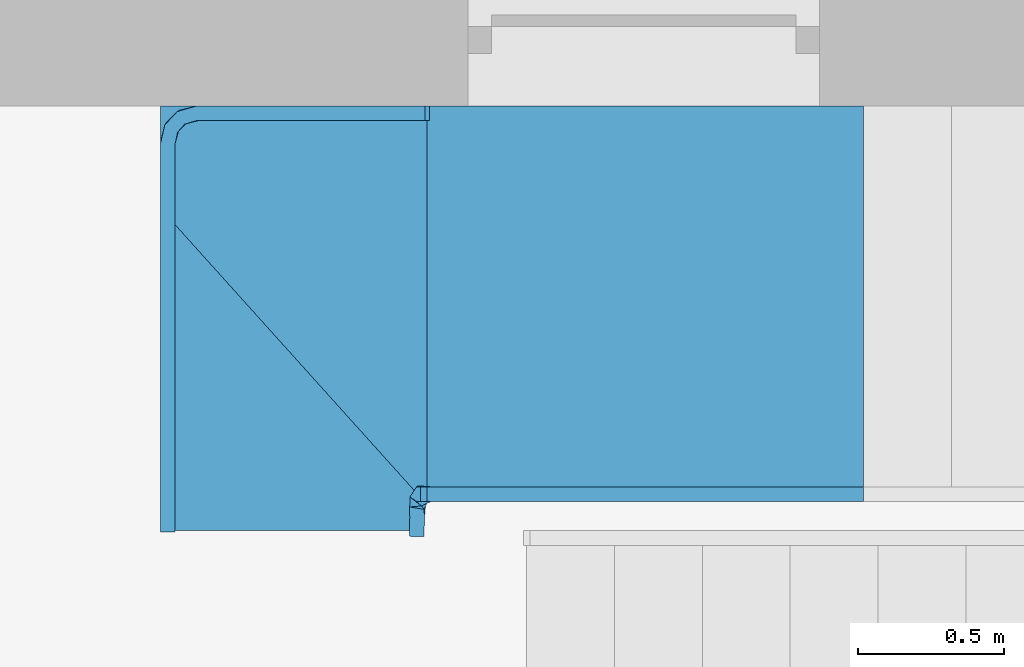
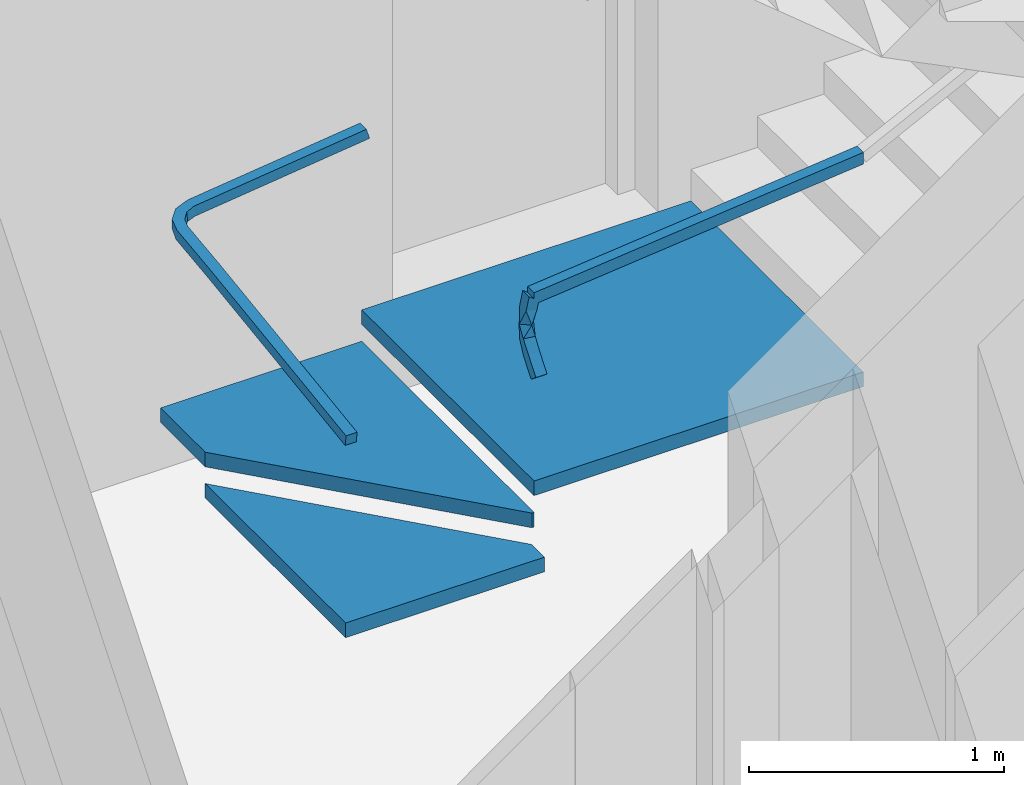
# One storey, part 127 of 140: 1 stair.
"""IFC4 building model written with IfcOpenShell, lengths in metres."""

import ifcopenshell
import ifcopenshell.guid

model = None  # the IFC model being written
_history = None  # IfcOwnerHistory: only IFC2X3 demands one
_inside = {}  # id of a spatial element -> (the spatial element, [elements in it])
_under = {}  # id of a project, library or spatial element -> (it, [spatial elements below it])
_declared = {}  # id of a project -> (the project, [libraries it declares])
_typed = {}  # id of a type object -> (the type object, [elements of that type])
_made_of = {}  # id of a material, layer set ... -> (it, [elements and type objects made of it])


def new_model(schema):
    """Start an empty IFC model of exactly this schema.

    Asked for "IFC4X3", IfcOpenShell would pick the latest addendum, in which some entities
    have other attributes; the version numbers below select the first issue.
    IFC2X3 requires an IfcOwnerHistory on every rooted entity: one is made here for all.
    """
    global model, _history
    if schema == "IFC4X3":
        model = ifcopenshell.file(schema_version=(4, 3, 0, 0))
    else:
        model = ifcopenshell.file(schema=schema)
    _inside.clear()
    _under.clear()
    _declared.clear()
    _typed.clear()
    _made_of.clear()
    _history = None
    if model.schema == "IFC2X3":
        org = make("IfcOrganization", Name="unknown")
        user = make(
            "IfcPersonAndOrganization",
            ThePerson=make("IfcPerson", FamilyName="unknown"),
            TheOrganization=org,
        )
        app = make(
            "IfcApplication",
            ApplicationDeveloper=org,
            Version="unknown",
            ApplicationFullName="unknown",
            ApplicationIdentifier="unknown",
        )
        _history = make(
            "IfcOwnerHistory",
            OwningUser=user,
            OwningApplication=app,
            ChangeAction="ADDED",
            CreationDate=0,
        )
    return model


def make(cls, **values):
    """One entity of the class cls with the attributes given. An attribute that is None is left unset."""
    return model.create_entity(
        cls, **{name: value for name, value in values.items() if value is not None}
    )


def entity(cls, *values):
    """Any entity or typed value of the class cls, its attributes in the order of the schema. None: left unset."""
    e = model.create_entity(cls)
    for i, value in enumerate(values):
        if value is not None:
            e[i] = value
    return e


def rooted(cls, **values):
    """An entity with a GlobalId (a new one), such as an element, a storey or a relation."""
    return make(cls, GlobalId=ifcopenshell.guid.new(), OwnerHistory=_history, **values)


def si_unit(unit_type, name, prefix=None):
    """IfcSIUnit, for example si_unit("LENGTHUNIT", "METRE", prefix="MILLI")."""
    return make("IfcSIUnit", UnitType=unit_type, Prefix=prefix, Name=name)


def converted_unit(unit_type, name, factor, base, dimensions=None, offset=None):
    """IfcConversionBasedUnit, such as the inch: factor (a typed value) times the base unit."""
    return make(
        "IfcConversionBasedUnit"
        if offset is None
        else "IfcConversionBasedUnitWithOffset",
        ConversionOffset=offset,
        Dimensions=None
        if dimensions is None
        else entity("IfcDimensionalExponents", *dimensions),
        UnitType=unit_type,
        Name=name,
        ConversionFactor=make(
            "IfcMeasureWithUnit", ValueComponent=factor, UnitComponent=base
        ),
    )


def derived_unit(unit_type, elements):
    """IfcDerivedUnit: a product of units, each with its exponent."""
    return make(
        "IfcDerivedUnit",
        Elements=[
            make("IfcDerivedUnitElement", Unit=unit, Exponent=power)
            for unit, power in elements
        ],
        UnitType=unit_type,
    )


def assignment(units):
    """IfcUnitAssignment: the units of a project."""
    return None if units is None else make("IfcUnitAssignment", Units=units)


def point(xyz):
    """IfcCartesianPoint."""
    return None if xyz is None else make("IfcCartesianPoint", Coordinates=xyz)


def direction(xyz):
    """IfcDirection."""
    return None if xyz is None else make("IfcDirection", DirectionRatios=xyz)


def frame(location, z_axis=None, x_axis=None):
    """IfcAxis2Placement3D, a coordinate frame: its origin and axes. An axis left out is left unset."""
    return make(
        "IfcAxis2Placement3D",
        Location=point(location),
        Axis=direction(z_axis),
        RefDirection=direction(x_axis),
    )


def origin():
    """The frame at (0, 0, 0) with its axes left unset."""
    return frame((0.0, 0.0, 0.0))


def place(relative_to, where):
    """IfcLocalPlacement: puts the frame where relative to a parent placement (None: the world)."""
    return make(
        "IfcLocalPlacement", PlacementRelTo=relative_to, RelativePlacement=where
    )


def context(
    kind, dimensions, precision=None, world=None, true_north=None, identifier=None
):
    """IfcGeometricRepresentationContext, for example the 3D "Model" context."""
    return make(
        "IfcGeometricRepresentationContext",
        ContextIdentifier=identifier,
        ContextType=kind,
        CoordinateSpaceDimension=dimensions,
        Precision=precision,
        WorldCoordinateSystem=world,
        TrueNorth=true_north,
    )


def subcontext(parent, identifier, kind, view, scale=None):
    """IfcGeometricRepresentationSubContext, for example "Body" below "Model"."""
    return make(
        "IfcGeometricRepresentationSubContext",
        ContextIdentifier=identifier,
        ContextType=kind,
        ParentContext=parent,
        TargetScale=scale,
        TargetView=view,
    )


def project(units=None, contexts=None):
    """IfcProject with its units and contexts."""
    return rooted(
        "IfcProject",
        Name="project",
        RepresentationContexts=contexts,
        UnitsInContext=assignment(units),
    )


def spatial(cls, under=None, at=None, **own):
    """A site, building, storey or space (cls), placed at a placement, below another one or the project."""
    s = rooted(cls, ObjectPlacement=at, **own)
    if under is not None:
        _under.setdefault(under.id(), (under, []))[1].append(s)
    return s


def faces_of(points, faces, orient=None, outer=None):
    """IfcFace entities. A face is a list of loops; a loop is a list of indices into points, from 0.

    orient and outer hold one flag for each loop. By default every Orientation is true, the
    first loop of a face is its IfcFaceOuterBound and the others are IfcFaceBound.
    """
    made = []
    for i, loops in enumerate(faces):
        bounds = []
        for j, loop in enumerate(loops):
            is_outer = j == 0 if outer is None else outer[i][j]
            bounds.append(
                make(
                    "IfcFaceOuterBound" if is_outer else "IfcFaceBound",
                    Bound=make("IfcPolyLoop", Polygon=[points[k] for k in loop]),
                    Orientation=True if orient is None else orient[i][j],
                )
            )
        made.append(make("IfcFace", Bounds=bounds))
    return made


def faceted_brep(points, faces, orient=None, outer=None, voids=None):
    """IfcFacetedBrep: a solid bounded by flat faces; with voids (closed shells), ...WithVoids."""
    shared = [point(p) for p in points]
    hull = make("IfcClosedShell", CfsFaces=faces_of(shared, faces, orient, outer))
    if voids is None:
        return make("IfcFacetedBrep", Outer=hull)
    return make(
        "IfcFacetedBrepWithVoids",
        Outer=hull,
        Voids=[
            make(cls, CfsFaces=faces_of(shared, fs, o, b)) for cls, fs, o, b in voids
        ],
    )


def shape(context_of_items, identifier, shape_type, items):
    """IfcShapeRepresentation: the items that make up one representation, for example the "Body"."""
    return make(
        "IfcShapeRepresentation",
        ContextOfItems=context_of_items,
        RepresentationIdentifier=identifier,
        RepresentationType=shape_type,
        Items=items,
    )


def material(Name=None, Category=None):
    """IfcMaterial."""
    return make("IfcMaterial", Name=Name, Category=Category)


def made_of(thing, what):
    """Note that an element or type object is made of a material, layer set ...; save() writes the relation."""
    if what is not None:
        _made_of.setdefault(what.id(), (what, []))[1].append(thing)
    return thing


def element(
    cls,
    number,
    at=None,
    inside=None,
    cuts=None,
    type_object=None,
    material=None,
    context=None,
    identifier="Body",
    shape_type=None,
    held_by="IfcProductDefinitionShape",
    body=None,
    shapes=None,
    **own,
):
    """One element of the class cls, such as IfcWall. Its Tag is "e" and its number.

    at: its placement. inside: the storey or other place that contains it. cuts: it is an
    opening in that element (IfcRelVoidsElement). A single representation is given by context,
    identifier, shape_type and body (its items); several are given by shapes. held_by: the class
    of the entity that holds the representations. save() writes the other relations.
    """
    e = rooted(cls, Tag="e%d" % number, ObjectPlacement=at, **own)
    if body is not None:
        shapes = [shape(context, identifier, shape_type, body)]
    if shapes is not None:
        e.Representation = make(held_by, Representations=shapes)
    if inside is not None:
        _inside.setdefault(inside.id(), (inside, []))[1].append(e)
    if cuts is not None:
        rooted(
            "IfcRelVoidsElement", RelatingBuildingElement=cuts, RelatedOpeningElement=e
        )
    if type_object is not None:
        _typed.setdefault(type_object.id(), (type_object, []))[1].append(e)
    return made_of(e, material)


def aggregate(whole, parts):
    """IfcRelAggregates: a whole, such as a stair, and the parts it consists of."""
    return rooted("IfcRelAggregates", RelatingObject=whole, RelatedObjects=parts)


def save(model, path):
    """Write the relations noted so far, then the file.

    IfcRelAggregates (storeys below a building ...), IfcRelContainedInSpatialStructure (elements
    in a storey), IfcRelDefinesByType, IfcRelAssociatesMaterial and IfcRelDeclares: one each for
    every whole, place, type object, material and project.
    """
    for whole, parts in _under.values():
        aggregate(whole, parts)
    for where, things in _inside.values():
        rooted(
            "IfcRelContainedInSpatialStructure",
            RelatedElements=things,
            RelatingStructure=where,
        )
    for kind, things in _typed.values():
        rooted("IfcRelDefinesByType", RelatedObjects=things, RelatingType=kind)
    for what, things in _made_of.values():
        rooted("IfcRelAssociatesMaterial", RelatedObjects=things, RelatingMaterial=what)
    for by, libraries in _declared.values():
        rooted("IfcRelDeclares", RelatingContext=by, RelatedDefinitions=libraries)
    model.write(path)


model = new_model("IFC4")

# Units and contexts
model_context = context("Model", 3, precision=1e-05, world=origin())
body_context = subcontext(model_context, "Body", "Model", "MODEL_VIEW")
ifc_project = project(units=[si_unit("LENGTHUNIT", "METRE"), si_unit("AREAUNIT", "SQUARE_METRE"), si_unit("VOLUMEUNIT", "CUBIC_METRE"), si_unit("MASSUNIT", "GRAM", prefix="KILO"), converted_unit("PLANEANGLEUNIT", "DEGREE", entity("IfcPlaneAngleMeasure", 0.0174532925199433), si_unit("PLANEANGLEUNIT", "RADIAN"), dimensions=[0, 0, 0, 0, 0, 0, 0]), derived_unit("THERMALTRANSMITTANCEUNIT", [(si_unit("POWERUNIT", "WATT"), 1), (si_unit("THERMODYNAMICTEMPERATUREUNIT", "KELVIN"), -1), (si_unit("LENGTHUNIT", "METRE"), -2)]), derived_unit("VOLUMETRICFLOWRATEUNIT", [(si_unit("LENGTHUNIT", "METRE"), 3), (converted_unit("TIMEUNIT", "hour", entity("IfcTimeMeasure", 3600.0), si_unit("TIMEUNIT", "SECOND"), dimensions=[0, 0, 1, 0, 0, 0, 0]), -1), (si_unit("LENGTHUNIT", "METRE"), -1)])], contexts=[model_context])

# Site, building, storey
site_placement = place(None, origin())
site = spatial("IfcSite", under=ifc_project, at=site_placement, Name="3. ASŘ", CompositionType="ELEMENT")
building_placement = place(site_placement, origin())
building = spatial("IfcBuilding", under=site, at=building_placement, Name="Pavilon C", CompositionType="ELEMENT")
storey_placement = place(building_placement, origin())
storey = spatial("IfcBuildingStorey", under=building, at=storey_placement, Name="Půdorys 1.NP", CompositionType="ELEMENT", Elevation=0.0)

# Stair
ifc_material = material(Name="Pøímé schodi\x9atì")
stair_placement = place(storey_placement, frame((41.8, 30.8302999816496, 0.08)))
element("IfcStair", 1, at=stair_placement, inside=storey, material=ifc_material, PredefinedType="NOTDEFINED", context=body_context, shape_type="Brep", body=[
    faceted_brep([(0.0, 1.46970001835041, 0.15), (0.0, 1.11970001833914, 0.15), (0.9, 0.119700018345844, 0.15), (0.910000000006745, 0.119700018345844, 0.15), (0.909999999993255, 1.46970001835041, 0.15), (0.0, 1.11970001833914, 0.22), (0.0, 1.46970001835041, 0.22), (0.909999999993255, 1.46970001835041, 0.22), (0.910000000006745, 0.119700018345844, 0.22), (0.9, 0.119700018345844, 0.22)], [[[0, 1, 2, 3, 4]], [[5, 6, 7, 8, 9]], [[1, 0, 6, 5]], [[2, 1, 5, 9]], [[3, 2, 9, 8]], [[4, 3, 8, 7]], [[0, 4, 7, 6]]], orient=[[False], [False], [False], [False], [False], [False], [False]]),
    faceted_brep([(0.0, 1.11970001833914, 0.0), (0.0, 0.0197000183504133, 0.0), (0.9, 0.0197000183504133, 0.0), (0.9, 0.119700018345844, 0.0), (0.0, 0.0197000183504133, 0.07), (0.0, 1.11970001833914, 0.07), (0.9, 0.119700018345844, 0.07), (0.9, 0.0197000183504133, 0.07)], [[[0, 1, 2, 3]], [[4, 5, 6, 7]], [[1, 0, 5, 4]], [[2, 1, 4, 7]], [[3, 2, 7, 6]], [[0, 3, 6, 5]]], orient=[[False], [False], [False], [False], [False], [False]]),
    faceted_brep([(2.3999, 1.46970001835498, 0.3), (0.909999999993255, 1.46970001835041, 0.3), (0.910000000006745, 0.119700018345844, 0.3), (2.3999, 0.119700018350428, 0.3), (0.909999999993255, 1.46970001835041, 0.37), (2.3999, 1.46970001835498, 0.37), (2.3999, 0.119700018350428, 0.37), (0.910000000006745, 0.119700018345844, 0.37)], [[[0, 1, 2, 3]], [[4, 5, 6, 7]], [[1, 0, 5, 4]], [[2, 1, 4, 7]], [[3, 2, 7, 6]], [[0, 3, 6, 5]]], orient=[[False], [False], [False], [False], [False], [False]]),
    faceted_brep([(0.899610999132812, 0.0, 0.958055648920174), (0.900379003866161, 0.0384002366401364, 0.926042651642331), (0.850389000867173, 0.0394000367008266, 0.926042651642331), (0.849620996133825, 0.000999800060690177, 0.958055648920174), (0.900830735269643, 0.0609868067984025, 1.03123981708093), (0.850840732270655, 0.0619866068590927, 1.03123981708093), (0.851608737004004, 0.100386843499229, 0.999226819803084), (0.901598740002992, 0.099387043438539, 0.999226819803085)], [[[0, 1, 2, 3]], [[4, 5, 6, 7]], [[0, 3, 5, 4]], [[3, 2, 6, 5]], [[2, 1, 7, 6]], [[1, 0, 4, 7]]], orient=[[False], [False], [False], [False], [False], [False]]),
    faceted_brep([(0.900830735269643, 0.0609868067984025, 1.03123981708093), (0.901598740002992, 0.099387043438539, 0.999226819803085), (0.851608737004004, 0.100386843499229, 0.999226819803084), (0.850840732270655, 0.0619866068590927, 1.03123981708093), (0.900032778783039, 0.0928414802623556, 1.08170885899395), (0.850699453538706, 0.100979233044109, 1.08170885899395), (0.857853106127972, 0.144346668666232, 1.05787420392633), (0.907186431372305, 0.136208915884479, 1.05787420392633), (0.890994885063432, 0.104368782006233, 1.13129644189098), (0.851472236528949, 0.134994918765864, 1.13129644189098), (0.881039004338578, 0.173150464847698, 1.11825955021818), (0.920561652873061, 0.142524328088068, 1.11825955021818), (0.874242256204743, 0.119700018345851, 1.19507529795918), (0.874242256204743, 0.169700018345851, 1.19507529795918), (0.923108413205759, 0.169700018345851, 1.18448763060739), (0.923108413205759, 0.119700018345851, 1.18448763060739), (0.888059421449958, 0.119700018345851, 1.25884682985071), (0.888059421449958, 0.169700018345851, 1.25884682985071), (0.931940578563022, 0.169700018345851, 1.2252514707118), (0.931940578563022, 0.119700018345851, 1.2252514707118)], [[[0, 1, 2, 3]], [[0, 3, 4]], [[3, 5, 4]], [[3, 2, 5]], [[2, 6, 5]], [[2, 1, 6]], [[1, 7, 6]], [[1, 0, 7]], [[0, 4, 7]], [[4, 5, 8]], [[5, 9, 8]], [[5, 6, 9]], [[6, 10, 9]], [[6, 7, 10]], [[7, 11, 10]], [[7, 4, 11]], [[4, 8, 11]], [[8, 9, 12]], [[9, 13, 12]], [[9, 10, 13]], [[10, 14, 13]], [[10, 11, 14]], [[11, 15, 14]], [[11, 8, 15]], [[8, 12, 15]], [[16, 17, 18, 19]], [[12, 13, 17, 16]], [[13, 14, 18, 17]], [[14, 15, 19, 18]], [[15, 12, 16, 19]]], orient=[[False], [False], [False], [False], [False], [False], [False], [False], [False], [False], [False], [False], [False], [False], [False], [False], [False], [False], [False], [False], [False], [False], [False], [False], [False], [False], [False], [False], [False], [False]]),
    faceted_brep([(0.910000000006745, 0.119700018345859, 1.21409830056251), (2.3999, 0.119700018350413, 1.36409830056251), (2.3999, 0.169700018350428, 1.36409830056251), (0.910000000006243, 0.169700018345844, 1.21409830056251), (0.910000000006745, 0.119700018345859, 1.27), (0.910000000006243, 0.169700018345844, 1.27), (2.3999, 0.169700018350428, 1.42), (2.3999, 0.119700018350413, 1.42)], [[[0, 1, 2, 3]], [[4, 5, 6, 7]], [[3, 5, 4, 0]], [[0, 4, 7, 1]], [[1, 7, 6, 2]], [[2, 6, 5, 3]]], orient=[[False], [False], [False], [False], [False], [False]]),
    faceted_brep([(0.05, 0.0162363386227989, 0.966808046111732), (0.05, 0.0231636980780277, 0.917290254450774), (0.0, 0.0231636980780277, 0.917290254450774), (0.0, 0.0162363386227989, 0.966808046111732), (0.05, 1.08868631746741, 1.11683990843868), (0.0, 1.08868631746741, 1.11683990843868), (0.0, 1.09515816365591, 1.06725839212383), (0.05, 1.09515816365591, 1.06725839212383)], [[[0, 1, 2, 3]], [[4, 5, 6, 7]], [[0, 3, 5, 4]], [[3, 2, 6, 5]], [[2, 1, 7, 6]], [[1, 0, 4, 7]]], orient=[[False], [False], [False], [False], [False], [False]]),
    faceted_brep([(0.05, 1.08868631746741, 1.11683990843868), (0.05, 1.09515816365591, 1.06725839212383), (0.0, 1.09515816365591, 1.06725839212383), (0.0, 1.08868631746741, 1.11683990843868), (0.902517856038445, 1.41970001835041, 1.26632533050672), (0.902517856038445, 1.46970001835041, 1.26632533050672), (0.917482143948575, 1.46970001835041, 1.21777297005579), (0.917482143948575, 1.41970001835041, 1.21777297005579), (0.0, 1.34241869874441, 1.14758844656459), (0.05, 1.34241869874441, 1.14758844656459), (0.0, 1.3484339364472, 1.09795159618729), (0.05, 1.3484339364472, 1.09795159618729), (0.0578353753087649, 1.38033916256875, 1.15519623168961), (0.0144465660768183, 1.40518692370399, 1.15519623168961), (0.018500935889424, 1.41226660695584, 1.10586632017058), (0.0618897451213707, 1.3874188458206, 1.10586632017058), (0.0822811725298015, 1.40781027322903, 1.16373467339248), (0.0574334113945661, 1.45119908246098, 1.16373467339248), (0.0645130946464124, 1.45525345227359, 1.11440476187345), (0.0893608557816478, 1.41186464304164, 1.11440476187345), (0.12126608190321, 1.41970001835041, 1.17164939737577), (0.12126608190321, 1.46970001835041, 1.17164939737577), (0.127281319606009, 1.46970001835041, 1.12201254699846), (0.127281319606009, 1.41970001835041, 1.12201254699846)], [[[0, 1, 2, 3]], [[4, 5, 6, 7]], [[0, 3, 8, 9]], [[3, 2, 10, 8]], [[2, 1, 11, 10]], [[1, 0, 9, 11]], [[9, 8, 12]], [[8, 13, 12]], [[8, 10, 13]], [[10, 14, 13]], [[10, 11, 14]], [[11, 15, 14]], [[11, 9, 15]], [[9, 12, 15]], [[12, 13, 16]], [[13, 17, 16]], [[13, 14, 17]], [[14, 18, 17]], [[14, 15, 18]], [[15, 19, 18]], [[15, 12, 19]], [[12, 16, 19]], [[16, 17, 20]], [[17, 21, 20]], [[17, 18, 21]], [[18, 22, 21]], [[18, 19, 22]], [[19, 23, 22]], [[19, 16, 23]], [[16, 20, 23]], [[20, 21, 5, 4]], [[21, 22, 6, 5]], [[22, 23, 7, 6]], [[23, 20, 4, 7]]], orient=[[False], [False], [False], [False], [False], [False], [False], [False], [False], [False], [False], [False], [False], [False], [False], [False], [False], [False], [False], [False], [False], [False], [False], [False], [False], [False], [False], [False], [False], [False], [False], [False], [False], [False]]),
])

save(model, "model.ifc")
